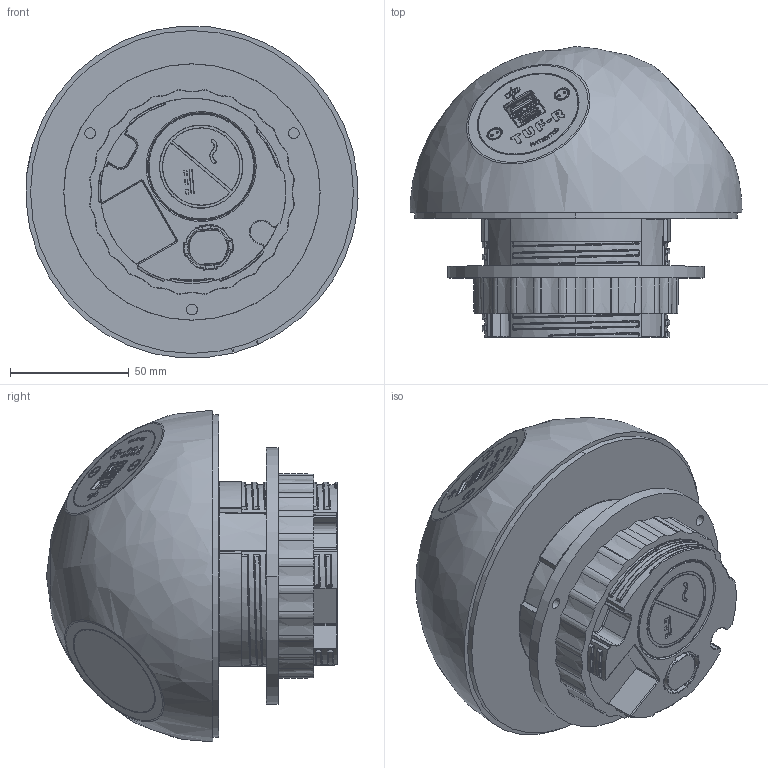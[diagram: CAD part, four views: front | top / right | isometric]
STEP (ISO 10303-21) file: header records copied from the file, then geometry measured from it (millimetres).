
FILE_DESCRIPTION (( 'STEP AP203' ), '1' );
FILE_NAME ('Pluto_10_Block.STEP', '2023-01-20T13:54:38', ( '' ), ( '' ), 'SwSTEP 2.0', 'SolidWorks 2021', '' );
FILE_SCHEMA (( 'CONFIG_CONTROL_DESIGN' ));
Products named in the file (1): Pluto_10_Block
Bounding box: 139.84 x 122.5 x 139.66 mm (x, y, z)
Volume: 996512.6 mm3; surface area: 77955.5 mm2
Topology: 1 solids, 3 shells, 3389 faces, 9361 edges, 5885 vertices
Faces by surface type: plane 1618, cylinder 750, bspline 675, torus 129, cone 119, sphere 98
Entity records: 179372 total; most frequent: CARTESIAN_POINT 98962, ORIENTED_EDGE 18694, DIRECTION 14116, EDGE_CURVE 9347, VERTEX_POINT 5884, VECTOR 5432, LINE 5432, AXIS2_PLACEMENT_3D 4342
